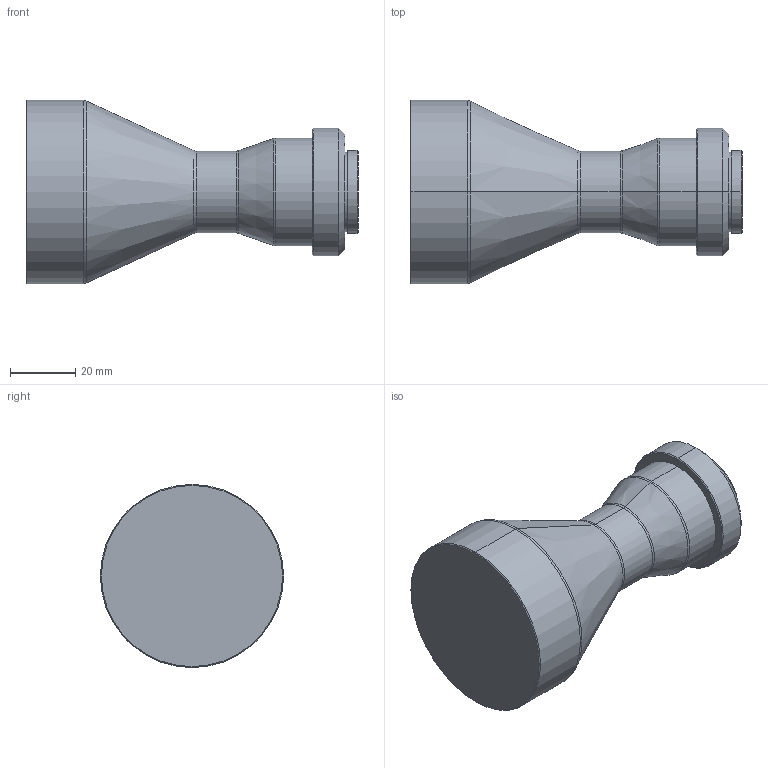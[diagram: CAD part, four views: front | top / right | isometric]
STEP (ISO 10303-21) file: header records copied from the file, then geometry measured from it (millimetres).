
FILE_DESCRIPTION (( 'STEP AP203' ), '1' );
FILE_NAME ('DTCA430-42-C STEPﾍｼ.STEP', '2019-11-12T08:29:58', ( 'Windows ﾓﾃｻｧ' ), ( '' ), 'SwSTEP 2.0', 'SolidWorks 2017', '' );
FILE_SCHEMA (( 'CONFIG_CONTROL_DESIGN' ));
Length unit declared in the file: millimetre
Products named in the file (1): DTCA430-42-C  STEPͼ
Bounding box: 101.5 x 56 x 56 mm (x, y, z)
Volume: 127300 mm3; surface area: 16589.2 mm2
Topology: 1 solids, 1 shells, 37 faces, 72 edges, 40 vertices
Faces by surface type: cone 12, cylinder 12, torus 8, plane 5
Entity records: 1019 total; most frequent: DIRECTION 196, CARTESIAN_POINT 150, ORIENTED_EDGE 144, AXIS2_PLACEMENT_3D 86, EDGE_CURVE 72, CIRCLE 48, VERTEX_POINT 40, EDGE_LOOP 40
